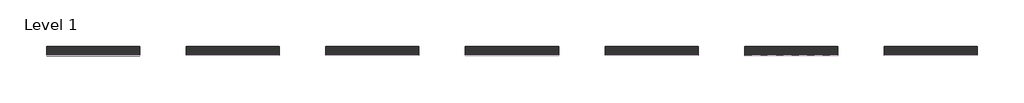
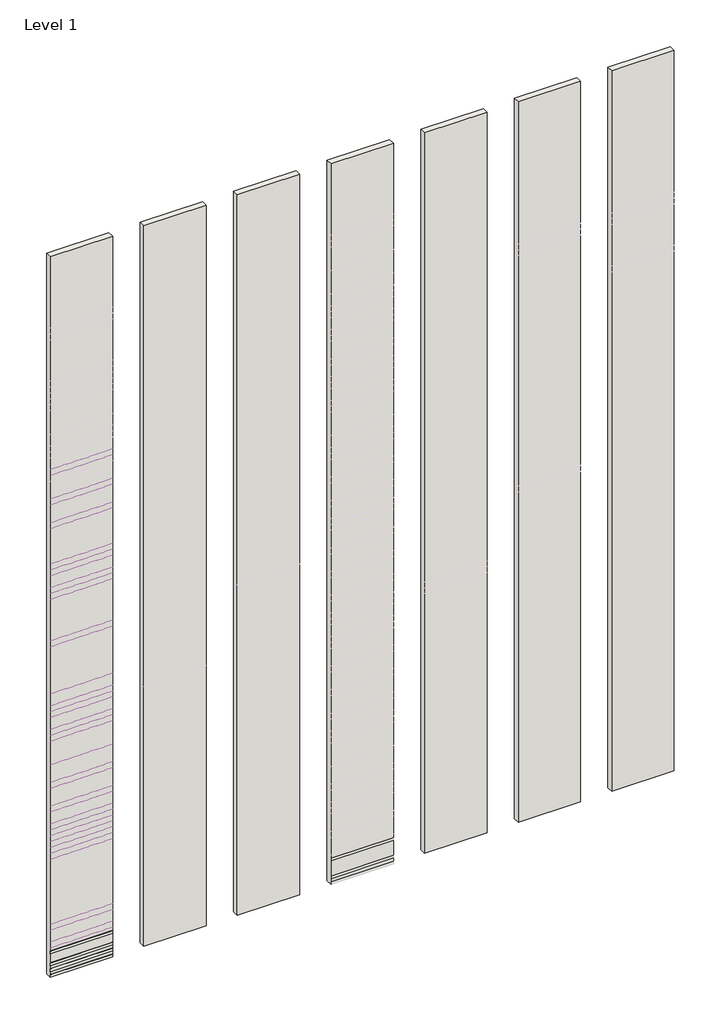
# One storey, part 1 of 3: 41 coverings, 7 walls.
"""IFC4 building model written with IfcOpenShell, lengths in millimetres."""

from ifc_helpers import new_model, si_unit, point, frame, frame_2d, origin, origin_with_axes, place, context, project, spatial, polyline, circle_curve, trimmed, segment, composite_curve, outline, extrude, element, save

model = new_model("IFC4")

# Units and contexts
model_context = context("Model", 3, world=origin())
ifc_project = project(units=[si_unit("LENGTHUNIT", "METRE", prefix="MILLI")], contexts=[model_context])

# Site, building, storey
site = spatial("IfcSite", under=ifc_project)
building = spatial("IfcBuilding", under=site)
storey = spatial("IfcBuildingStorey", under=building, Name="Level 1", Elevation=0.0)

# Coverings
placement = place(None, origin())
element("IfcCovering", 1, ObjectType="REVIGRÉS-CROMATICA-RB-9.5x30-MATTNAT-cromatica_alloy", at=placement, inside=storey, context=model_context, shape_type="SweptSolid", body=[
    extrude(outline(composite_curve([segment(polyline([(9521.7775805, 0.0), (9513.2775805, 0.0), (9513.2775805, 86.5)]), True, "CONTINUOUS"), segment(trimmed(circle_curve(frame_2d((9521.7775805, 86.5)), 8.5), [point((9513.2775805, 86.5))], [point((9521.7775805, 95.0))], False, "CARTESIAN"), True, "CONTINUOUS"), segment(polyline([(9521.7775805, 95.0), (9521.7775805, 0.0)]), True, "CONTINUOUS")], self_intersect=False)), frame((-30127.1860756, 0.0, 0.0), z_axis=(1.0, 0.0, 0.0), x_axis=(0.0, 1.0, 0.0)), (0.0, 0.0, 1.0), 2000.0),
])
element("IfcCovering", 2, ObjectType="REVIGRÉS-CROMATICA-RB-9.5x29.5-POL-cromatica_alloy", at=placement, inside=storey, context=model_context, shape_type="SweptSolid", body=[
    extrude(outline(composite_curve([segment(polyline([(9521.7775805, 200.0), (9513.7775805, 200.0), (9513.7775805, 287.0)]), True, "CONTINUOUS"), segment(trimmed(circle_curve(frame_2d((9521.7775805, 287.0)), 8.0), [point((9513.7775805, 287.0))], [point((9521.7775805, 295.0))], False, "CARTESIAN"), True, "CONTINUOUS"), segment(polyline([(9521.7775805, 295.0), (9521.7775805, 200.0)]), True, "CONTINUOUS")], self_intersect=False)), frame((-30127.1860756, 0.0, 0.0), z_axis=(1.0, 0.0, 0.0), x_axis=(0.0, 1.0, 0.0)), (0.0, 0.0, 1.0), 2000.0),
])
element("IfcCovering", 3, ObjectType="REVIGRÉS-CROMATICA-RB-9.5x29.5-SOFT-cromatica_alloy", at=placement, inside=storey, context=model_context, shape_type="SweptSolid", body=[
    extrude(outline(composite_curve([segment(polyline([(9521.7775805, 400.0), (9513.2775805, 400.0), (9513.2775805, 486.5)]), True, "CONTINUOUS"), segment(trimmed(circle_curve(frame_2d((9521.7775805, 486.5)), 8.5), [point((9513.2775805, 486.5))], [point((9521.7775805, 495.0))], False, "CARTESIAN"), True, "CONTINUOUS"), segment(polyline([(9521.7775805, 495.0), (9521.7775805, 400.0)]), True, "CONTINUOUS")], self_intersect=False)), frame((-30127.1860756, 0.0, 0.0), z_axis=(1.0, 0.0, 0.0), x_axis=(0.0, 1.0, 0.0)), (0.0, 0.0, 1.0), 2000.0),
])
element("IfcCovering", 4, ObjectType="REVIGRÉS-CROMATICA-RB-9.5x29.5-MATTRECT-cromatica_anis", at=placement, inside=storey, context=model_context, shape_type="SweptSolid", body=[
    extrude(outline(composite_curve([segment(polyline([(9521.7775805, 800.0), (9513.2775805, 800.0), (9513.2775805, 886.5)]), True, "CONTINUOUS"), segment(trimmed(circle_curve(frame_2d((9521.7775805, 886.5)), 8.5), [point((9513.2775805, 886.5))], [point((9521.7775805, 895.0))], False, "CARTESIAN"), True, "CONTINUOUS"), segment(polyline([(9521.7775805, 895.0), (9521.7775805, 800.0)]), True, "CONTINUOUS")], self_intersect=False)), frame((-30127.1860756, 0.0, 0.0), z_axis=(1.0, 0.0, 0.0), x_axis=(0.0, 1.0, 0.0)), (0.0, 0.0, 1.0), 2000.0),
])
element("IfcCovering", 5, ObjectType="REVIGRÉS-CROMATICA-RB-9.5x29.5-POL-cromatica_anis", at=placement, inside=storey, context=model_context, shape_type="SweptSolid", body=[
    extrude(outline(composite_curve([segment(polyline([(9521.7775805, 1000.0), (9513.7775805, 1000.0), (9513.7775805, 1087.0)]), True, "CONTINUOUS"), segment(trimmed(circle_curve(frame_2d((9521.7775805, 1087.0)), 8.0), [point((9513.7775805, 1087.0))], [point((9521.7775805, 1095.0))], False, "CARTESIAN"), True, "CONTINUOUS"), segment(polyline([(9521.7775805, 1095.0), (9521.7775805, 1000.0)]), True, "CONTINUOUS")], self_intersect=False)), frame((-30127.1860756, 0.0, 0.0), z_axis=(1.0, 0.0, 0.0), x_axis=(0.0, 1.0, 0.0)), (0.0, 0.0, 1.0), 2000.0),
])
element("IfcCovering", 6, ObjectType="REVIGRÉS-CROMATICA-RB-9.5x29.5-SOFT-cromatica_anis", at=placement, inside=storey, context=model_context, shape_type="SweptSolid", body=[
    extrude(outline(composite_curve([segment(polyline([(9521.7775805, 1200.0), (9513.2775805, 1200.0), (9513.2775805, 1286.5)]), True, "CONTINUOUS"), segment(trimmed(circle_curve(frame_2d((9521.7775805, 1286.5)), 8.5), [point((9513.2775805, 1286.5))], [point((9521.7775805, 1295.0))], False, "CARTESIAN"), True, "CONTINUOUS"), segment(polyline([(9521.7775805, 1295.0), (9521.7775805, 1200.0)]), True, "CONTINUOUS")], self_intersect=False)), frame((-30127.1860756, 0.0, 0.0), z_axis=(1.0, 0.0, 0.0), x_axis=(0.0, 1.0, 0.0)), (0.0, 0.0, 1.0), 2000.0),
])
element("IfcCovering", 7, ObjectType="REVIGRÉS-CROMATICA-RB-9.5x29.5-POL-cromatica_antracite", at=placement, inside=storey, context=model_context, shape_type="SweptSolid", body=[
    extrude(outline(composite_curve([segment(polyline([(9521.7775805, 1600.0), (9513.7775805, 1600.0), (9513.7775805, 1687.0)]), True, "CONTINUOUS"), segment(trimmed(circle_curve(frame_2d((9521.7775805, 1687.0)), 8.0), [point((9513.7775805, 1687.0))], [point((9521.7775805, 1695.0))], False, "CARTESIAN"), True, "CONTINUOUS"), segment(polyline([(9521.7775805, 1695.0), (9521.7775805, 1600.0)]), True, "CONTINUOUS")], self_intersect=False)), frame((-30127.1860756, 0.0, 0.0), z_axis=(1.0, 0.0, 0.0), x_axis=(0.0, 1.0, 0.0)), (0.0, 0.0, 1.0), 2000.0),
])
element("IfcCovering", 8, ObjectType="REVIGRÉS-CROMATICA-RB-9.5x29.5-SOFT-cromatica_antracite", at=placement, inside=storey, context=model_context, shape_type="SweptSolid", body=[
    extrude(outline(composite_curve([segment(polyline([(9521.7775805, 1800.0), (9513.2775805, 1800.0), (9513.2775805, 1886.5)]), True, "CONTINUOUS"), segment(trimmed(circle_curve(frame_2d((9521.7775805, 1886.5)), 8.5), [point((9513.2775805, 1886.5))], [point((9521.7775805, 1895.0))], False, "CARTESIAN"), True, "CONTINUOUS"), segment(polyline([(9521.7775805, 1895.0), (9521.7775805, 1800.0)]), True, "CONTINUOUS")], self_intersect=False)), frame((-30127.1860756, 0.0, 0.0), z_axis=(1.0, 0.0, 0.0), x_axis=(0.0, 1.0, 0.0)), (0.0, 0.0, 1.0), 2000.0),
])
element("IfcCovering", 9, ObjectType="REVIGRÉS-CROMATICA-RB-9.5x29.5-MATTRECT-cromatica_bege", at=placement, inside=storey, context=model_context, shape_type="SweptSolid", body=[
    extrude(outline(composite_curve([segment(polyline([(9521.7775805, 4200.0), (9513.2775805, 4200.0), (9513.2775805, 4286.5)]), True, "CONTINUOUS"), segment(trimmed(circle_curve(frame_2d((9521.7775805, 4286.5)), 8.5), [point((9513.2775805, 4286.5))], [point((9521.7775805, 4295.0))], False, "CARTESIAN"), True, "CONTINUOUS"), segment(polyline([(9521.7775805, 4295.0), (9521.7775805, 4200.0)]), True, "CONTINUOUS")], self_intersect=False)), frame((-30127.1860756, 0.0, 0.0), z_axis=(1.0, 0.0, 0.0), x_axis=(0.0, 1.0, 0.0)), (0.0, 0.0, 1.0), 2000.0),
])
element("IfcCovering", 10, ObjectType="REVIGRÉS-CROMATICA-RB-9.5x30-MATTNAT-cromatica_bege", at=placement, inside=storey, context=model_context, shape_type="SweptSolid", body=[
    extrude(outline(composite_curve([segment(polyline([(9521.7775805, 4000.0), (9513.2775805, 4000.0), (9513.2775805, 4086.5)]), True, "CONTINUOUS"), segment(trimmed(circle_curve(frame_2d((9521.7775805, 4086.5)), 8.5), [point((9513.2775805, 4086.5))], [point((9521.7775805, 4095.0))], False, "CARTESIAN"), True, "CONTINUOUS"), segment(polyline([(9521.7775805, 4095.0), (9521.7775805, 4000.0)]), True, "CONTINUOUS")], self_intersect=False)), frame((-30127.1860756, 0.0, 0.0), z_axis=(1.0, 0.0, 0.0), x_axis=(0.0, 1.0, 0.0)), (0.0, 0.0, 1.0), 2000.0),
])
element("IfcCovering", 11, ObjectType="REVIGRÉS-CROMATICA-RB-9.5x29.5-POL-cromatica_bege", at=placement, inside=storey, context=model_context, shape_type="SweptSolid", body=[
    extrude(outline(composite_curve([segment(polyline([(9521.7775805, 4400.0), (9513.7775805, 4400.0), (9513.7775805, 4487.0)]), True, "CONTINUOUS"), segment(trimmed(circle_curve(frame_2d((9521.7775805, 4487.0)), 8.0), [point((9513.7775805, 4487.0))], [point((9521.7775805, 4495.0))], False, "CARTESIAN"), True, "CONTINUOUS"), segment(polyline([(9521.7775805, 4495.0), (9521.7775805, 4400.0)]), True, "CONTINUOUS")], self_intersect=False)), frame((-30127.1860756, 0.0, 0.0), z_axis=(1.0, 0.0, 0.0), x_axis=(0.0, 1.0, 0.0)), (0.0, 0.0, 1.0), 2000.0),
])
element("IfcCovering", 12, ObjectType="REVIGRÉS-CROMATICA-RB-9.5x29.5-SOFT-cromatica_bege", at=placement, inside=storey, context=model_context, shape_type="SweptSolid", body=[
    extrude(outline(composite_curve([segment(polyline([(9521.7775805, 4600.0), (9513.2775805, 4600.0), (9513.2775805, 4686.5)]), True, "CONTINUOUS"), segment(trimmed(circle_curve(frame_2d((9521.7775805, 4686.5)), 8.5), [point((9513.2775805, 4686.5))], [point((9521.7775805, 4695.0))], False, "CARTESIAN"), True, "CONTINUOUS"), segment(polyline([(9521.7775805, 4695.0), (9521.7775805, 4600.0)]), True, "CONTINUOUS")], self_intersect=False)), frame((-30127.1860756, 0.0, 0.0), z_axis=(1.0, 0.0, 0.0), x_axis=(0.0, 1.0, 0.0)), (0.0, 0.0, 1.0), 2000.0),
])
element("IfcCovering", 13, ObjectType="REVIGRÉS-CROMATICA-RB-9.5x29.5-MATTRECT-cromatica_bone", at=placement, inside=storey, context=model_context, shape_type="SweptSolid", body=[
    extrude(outline(composite_curve([segment(polyline([(9521.7775805, 4800.0), (9513.2775805, 4800.0), (9513.2775805, 4886.5)]), True, "CONTINUOUS"), segment(trimmed(circle_curve(frame_2d((9521.7775805, 4886.5)), 8.5), [point((9513.2775805, 4886.5))], [point((9521.7775805, 4895.0))], False, "CARTESIAN"), True, "CONTINUOUS"), segment(polyline([(9521.7775805, 4895.0), (9521.7775805, 4800.0)]), True, "CONTINUOUS")], self_intersect=False)), frame((-30127.1860756, 0.0, 0.0), z_axis=(1.0, 0.0, 0.0), x_axis=(0.0, 1.0, 0.0)), (0.0, 0.0, 1.0), 2000.0),
])
element("IfcCovering", 14, ObjectType="REVIGRÉS-CROMATICA-RB-9.5x29.5-POL-cromatica_bone", at=placement, inside=storey, context=model_context, shape_type="SweptSolid", body=[
    extrude(outline(composite_curve([segment(polyline([(9521.7775805, 5000.0), (9513.7775805, 5000.0), (9513.7775805, 5087.0)]), True, "CONTINUOUS"), segment(trimmed(circle_curve(frame_2d((9521.7775805, 5087.0)), 8.0), [point((9513.7775805, 5087.0))], [point((9521.7775805, 5095.0))], False, "CARTESIAN"), True, "CONTINUOUS"), segment(polyline([(9521.7775805, 5095.0), (9521.7775805, 5000.0)]), True, "CONTINUOUS")], self_intersect=False)), frame((-30127.1860756, 0.0, 0.0), z_axis=(1.0, 0.0, 0.0), x_axis=(0.0, 1.0, 0.0)), (0.0, 0.0, 1.0), 2000.0),
])
element("IfcCovering", 15, ObjectType="REVIGRÉS-CROMATICA-RB-9.5x29.5-SOFT-cromatica_bone", at=placement, inside=storey, context=model_context, shape_type="SweptSolid", body=[
    extrude(outline(composite_curve([segment(polyline([(9521.7775805, 5200.0), (9513.2775805, 5200.0), (9513.2775805, 5286.5)]), True, "CONTINUOUS"), segment(trimmed(circle_curve(frame_2d((9521.7775805, 5286.5)), 8.5), [point((9513.2775805, 5286.5))], [point((9521.7775805, 5295.0))], False, "CARTESIAN"), True, "CONTINUOUS"), segment(polyline([(9521.7775805, 5295.0), (9521.7775805, 5200.0)]), True, "CONTINUOUS")], self_intersect=False)), frame((-30127.1860756, 0.0, 0.0), z_axis=(1.0, 0.0, 0.0), x_axis=(0.0, 1.0, 0.0)), (0.0, 0.0, 1.0), 2000.0),
])
element("IfcCovering", 16, ObjectType="REVIGRÉS-CROMATICA-RB-9.5x29.5-MATTRECT-cromatica_brick", at=placement, inside=storey, context=model_context, shape_type="SweptSolid", body=[
    extrude(outline(composite_curve([segment(polyline([(9521.7775805, 5600.0), (9513.2775805, 5600.0), (9513.2775805, 5686.5)]), True, "CONTINUOUS"), segment(trimmed(circle_curve(frame_2d((9521.7775805, 5686.5)), 8.5), [point((9513.2775805, 5686.5))], [point((9521.7775805, 5695.0))], False, "CARTESIAN"), True, "CONTINUOUS"), segment(polyline([(9521.7775805, 5695.0), (9521.7775805, 5600.0)]), True, "CONTINUOUS")], self_intersect=False)), frame((-30127.1860756, 0.0, 0.0), z_axis=(1.0, 0.0, 0.0), x_axis=(0.0, 1.0, 0.0)), (0.0, 0.0, 1.0), 2000.0),
])
element("IfcCovering", 17, ObjectType="REVIGRÉS-CROMATICA-RB-9.5x29.5-POL-cromatica_brick", at=placement, inside=storey, context=model_context, shape_type="SweptSolid", body=[
    extrude(outline(composite_curve([segment(polyline([(9521.7775805, 5800.0), (9513.7775805, 5800.0), (9513.7775805, 5887.0)]), True, "CONTINUOUS"), segment(trimmed(circle_curve(frame_2d((9521.7775805, 5887.0)), 8.0), [point((9513.7775805, 5887.0))], [point((9521.7775805, 5895.0))], False, "CARTESIAN"), True, "CONTINUOUS"), segment(polyline([(9521.7775805, 5895.0), (9521.7775805, 5800.0)]), True, "CONTINUOUS")], self_intersect=False)), frame((-30127.1860756, 0.0, 0.0), z_axis=(1.0, 0.0, 0.0), x_axis=(0.0, 1.0, 0.0)), (0.0, 0.0, 1.0), 2000.0),
])
element("IfcCovering", 18, ObjectType="REVIGRÉS-CROMATICA-RB-9.5x29.5-MATTRECT-cromatica_cobalto", at=placement, inside=storey, context=model_context, shape_type="SweptSolid", body=[
    extrude(outline(composite_curve([segment(polyline([(9521.7775805, 6400.0), (9513.2775805, 6400.0), (9513.2775805, 6486.5)]), True, "CONTINUOUS"), segment(trimmed(circle_curve(frame_2d((9521.7775805, 6486.5)), 8.5), [point((9513.2775805, 6486.5))], [point((9521.7775805, 6495.0))], False, "CARTESIAN"), True, "CONTINUOUS"), segment(polyline([(9521.7775805, 6495.0), (9521.7775805, 6400.0)]), True, "CONTINUOUS")], self_intersect=False)), frame((-30127.1860756, 0.0, 0.0), z_axis=(1.0, 0.0, 0.0), x_axis=(0.0, 1.0, 0.0)), (0.0, 0.0, 1.0), 2000.0),
])
element("IfcCovering", 19, ObjectType="REVIGRÉS-CROMATICA-RB-9.5x29.5-MATTRECT-cromatica_coral", at=placement, inside=storey, context=model_context, shape_type="SweptSolid", body=[
    extrude(outline(composite_curve([segment(polyline([(9521.7775805, 7200.0), (9513.2775805, 7200.0), (9513.2775805, 7286.5)]), True, "CONTINUOUS"), segment(trimmed(circle_curve(frame_2d((9521.7775805, 7286.5)), 8.5), [point((9513.2775805, 7286.5))], [point((9521.7775805, 7295.0))], False, "CARTESIAN"), True, "CONTINUOUS"), segment(polyline([(9521.7775805, 7295.0), (9521.7775805, 7200.0)]), True, "CONTINUOUS")], self_intersect=False)), frame((-30127.1860756, 0.0, 0.0), z_axis=(1.0, 0.0, 0.0), x_axis=(0.0, 1.0, 0.0)), (0.0, 0.0, 1.0), 2000.0),
])
element("IfcCovering", 20, ObjectType="REVIGRÉS-CROMATICA-RB-9.5x29.5-MATTRECT-cromatica_grafite", at=placement, inside=storey, context=model_context, shape_type="SweptSolid", body=[
    extrude(outline(composite_curve([segment(polyline([(9521.7775805, 8000.0), (9513.2775805, 8000.0), (9513.2775805, 8086.5)]), True, "CONTINUOUS"), segment(trimmed(circle_curve(frame_2d((9521.7775805, 8086.5)), 8.5), [point((9513.2775805, 8086.5))], [point((9521.7775805, 8095.0))], False, "CARTESIAN"), True, "CONTINUOUS"), segment(polyline([(9521.7775805, 8095.0), (9521.7775805, 8000.0)]), True, "CONTINUOUS")], self_intersect=False)), frame((-30127.1860756, 0.0, 0.0), z_axis=(1.0, 0.0, 0.0), x_axis=(0.0, 1.0, 0.0)), (0.0, 0.0, 1.0), 2000.0),
])
element("IfcCovering", 21, ObjectType="REVIGRÉS-CROMATICA-RB-9.5x29.5-POL-cromatica_grafite", at=placement, inside=storey, context=model_context, shape_type="SweptSolid", body=[
    extrude(outline(composite_curve([segment(polyline([(9521.7775805, 8200.0), (9513.7775805, 8200.0), (9513.7775805, 8287.0)]), True, "CONTINUOUS"), segment(trimmed(circle_curve(frame_2d((9521.7775805, 8287.0)), 8.0), [point((9513.7775805, 8287.0))], [point((9521.7775805, 8295.0))], False, "CARTESIAN"), True, "CONTINUOUS"), segment(polyline([(9521.7775805, 8295.0), (9521.7775805, 8200.0)]), True, "CONTINUOUS")], self_intersect=False)), frame((-30127.1860756, 0.0, 0.0), z_axis=(1.0, 0.0, 0.0), x_axis=(0.0, 1.0, 0.0)), (0.0, 0.0, 1.0), 2000.0),
])
element("IfcCovering", 22, ObjectType="REVIGRÉS-CROMATICA-RB-9.5x29.5-SOFT-cromatica_grafite", at=placement, inside=storey, context=model_context, shape_type="SweptSolid", body=[
    extrude(outline(composite_curve([segment(polyline([(9521.7775805, 8400.0), (9513.2775805, 8400.0), (9513.2775805, 8486.5)]), True, "CONTINUOUS"), segment(trimmed(circle_curve(frame_2d((9521.7775805, 8486.5)), 8.5), [point((9513.2775805, 8486.5))], [point((9521.7775805, 8495.0))], False, "CARTESIAN"), True, "CONTINUOUS"), segment(polyline([(9521.7775805, 8495.0), (9521.7775805, 8400.0)]), True, "CONTINUOUS")], self_intersect=False)), frame((-30127.1860756, 0.0, 0.0), z_axis=(1.0, 0.0, 0.0), x_axis=(0.0, 1.0, 0.0)), (0.0, 0.0, 1.0), 2000.0),
])
element("IfcCovering", 23, ObjectType="REVIGRÉS-CROMATICA-RB-9.5x29.5-MATTRECT-cromatica_ice", at=placement, inside=storey, context=model_context, shape_type="SweptSolid", body=[
    extrude(outline(composite_curve([segment(polyline([(9521.7775805, 8800.0), (9513.2775805, 8800.0), (9513.2775805, 8886.5)]), True, "CONTINUOUS"), segment(trimmed(circle_curve(frame_2d((9521.7775805, 8886.5)), 8.5), [point((9513.2775805, 8886.5))], [point((9521.7775805, 8895.0))], False, "CARTESIAN"), True, "CONTINUOUS"), segment(polyline([(9521.7775805, 8895.0), (9521.7775805, 8800.0)]), True, "CONTINUOUS")], self_intersect=False)), frame((-30127.1860756, 0.0, 0.0), z_axis=(1.0, 0.0, 0.0), x_axis=(0.0, 1.0, 0.0)), (0.0, 0.0, 1.0), 2000.0),
])
element("IfcCovering", 24, ObjectType="REVIGRÉS-CROMATICA-RB-9.5x29.5-POL-cromatica_ice", at=placement, inside=storey, context=model_context, shape_type="SweptSolid", body=[
    extrude(outline(composite_curve([segment(polyline([(9521.7775805, 9000.0), (9513.7775805, 9000.0), (9513.7775805, 9087.0)]), True, "CONTINUOUS"), segment(trimmed(circle_curve(frame_2d((9521.7775805, 9087.0)), 8.0), [point((9513.7775805, 9087.0))], [point((9521.7775805, 9095.0))], False, "CARTESIAN"), True, "CONTINUOUS"), segment(polyline([(9521.7775805, 9095.0), (9521.7775805, 9000.0)]), True, "CONTINUOUS")], self_intersect=False)), frame((-30127.1860756, 0.0, 0.0), z_axis=(1.0, 0.0, 0.0), x_axis=(0.0, 1.0, 0.0)), (0.0, 0.0, 1.0), 2000.0),
])
element("IfcCovering", 25, ObjectType="REVIGRÉS-CROMATICA-RB-9.5x29.5-SOFT-cromatica_ice", at=placement, inside=storey, context=model_context, shape_type="SweptSolid", body=[
    extrude(outline(composite_curve([segment(polyline([(9521.7775805, 9200.0), (9513.2775805, 9200.0), (9513.2775805, 9286.5)]), True, "CONTINUOUS"), segment(trimmed(circle_curve(frame_2d((9521.7775805, 9286.5)), 8.5), [point((9513.2775805, 9286.5))], [point((9521.7775805, 9295.0))], False, "CARTESIAN"), True, "CONTINUOUS"), segment(polyline([(9521.7775805, 9295.0), (9521.7775805, 9200.0)]), True, "CONTINUOUS")], self_intersect=False)), frame((-30127.1860756, 0.0, 0.0), z_axis=(1.0, 0.0, 0.0), x_axis=(0.0, 1.0, 0.0)), (0.0, 0.0, 1.0), 2000.0),
])
element("IfcCovering", 26, ObjectType="REVIGRÉS-CROMATICA-RB-9.5x29.5-SOFT-cromatica_indigo", at=placement, inside=storey, context=model_context, shape_type="SweptSolid", body=[
    extrude(outline(composite_curve([segment(polyline([(9521.7775805, 9600.0), (9513.2775805, 9600.0), (9513.2775805, 9686.5)]), True, "CONTINUOUS"), segment(trimmed(circle_curve(frame_2d((9521.7775805, 9686.5)), 8.5), [point((9513.2775805, 9686.5))], [point((9521.7775805, 9695.0))], False, "CARTESIAN"), True, "CONTINUOUS"), segment(polyline([(9521.7775805, 9695.0), (9521.7775805, 9600.0)]), True, "CONTINUOUS")], self_intersect=False)), frame((-30127.1860756, 0.0, 0.0), z_axis=(1.0, 0.0, 0.0), x_axis=(0.0, 1.0, 0.0)), (0.0, 0.0, 1.0), 2000.0),
])
element("IfcCovering", 27, ObjectType="REVIGRÉS-CROMATICA-RB-9.5x29.5-POL-cromatica_cobalto", at=placement, inside=storey, context=model_context, shape_type="SweptSolid", body=[
    extrude(outline(composite_curve([segment(polyline([(9521.7775805, 6600.0), (9513.7775805, 6600.0), (9513.7775805, 6687.0)]), True, "CONTINUOUS"), segment(trimmed(circle_curve(frame_2d((9521.7775805, 6687.0)), 8.0), [point((9513.7775805, 6687.0))], [point((9521.7775805, 6695.0))], False, "CARTESIAN"), True, "CONTINUOUS"), segment(polyline([(9521.7775805, 6695.0), (9521.7775805, 6600.0)]), True, "CONTINUOUS")], self_intersect=False)), frame((-30127.1860756, 0.0, 0.0), z_axis=(1.0, 0.0, 0.0), x_axis=(0.0, 1.0, 0.0)), (0.0, 0.0, 1.0), 2000.0),
])
element("IfcCovering", 28, ObjectType="REVIGRÉS-CROMATICA-RB-9.5x29.5-SOFT-cromatica_jet", at=placement, inside=storey, context=model_context, shape_type="SweptSolid", body=[
    extrude(outline(composite_curve([segment(polyline([(9521.7775805, 11400.0), (9513.2775805, 11400.0), (9513.2775805, 11486.5)]), True, "CONTINUOUS"), segment(trimmed(circle_curve(frame_2d((9521.7775805, 11486.5)), 8.5), [point((9513.2775805, 11486.5))], [point((9521.7775805, 11495.0))], False, "CARTESIAN"), True, "CONTINUOUS"), segment(polyline([(9521.7775805, 11495.0), (9521.7775805, 11400.0)]), True, "CONTINUOUS")], self_intersect=False)), frame((-30127.1860756, 0.0, 0.0), z_axis=(1.0, 0.0, 0.0), x_axis=(0.0, 1.0, 0.0)), (0.0, 0.0, 1.0), 2000.0),
])
element("IfcCovering", 29, ObjectType="REVIGRÉS-CROMATICA-RB-9.5x29.5-POL-cromatica_jet", at=placement, inside=storey, context=model_context, shape_type="SweptSolid", body=[
    extrude(outline(composite_curve([segment(polyline([(9521.7775805, 11200.0), (9513.7775805, 11200.0), (9513.7775805, 11287.0)]), True, "CONTINUOUS"), segment(trimmed(circle_curve(frame_2d((9521.7775805, 11287.0)), 8.0), [point((9513.7775805, 11287.0))], [point((9521.7775805, 11295.0))], False, "CARTESIAN"), True, "CONTINUOUS"), segment(polyline([(9521.7775805, 11295.0), (9521.7775805, 11200.0)]), True, "CONTINUOUS")], self_intersect=False)), frame((-30127.1860756, 0.0, 0.0), z_axis=(1.0, 0.0, 0.0), x_axis=(0.0, 1.0, 0.0)), (0.0, 0.0, 1.0), 2000.0),
])
element("IfcCovering", 30, ObjectType="REVIGRÉS-CROMATICA-RB-9.5x29.5-MATTRECT-cromatica_ocre", at=placement, inside=storey, context=model_context, shape_type="SweptSolid", body=[
    extrude(outline(composite_curve([segment(polyline([(9521.7775805, 12800.0), (9513.2775805, 12800.0), (9513.2775805, 12886.5)]), True, "CONTINUOUS"), segment(trimmed(circle_curve(frame_2d((9521.7775805, 12886.5)), 8.5), [point((9513.2775805, 12886.5))], [point((9521.7775805, 12895.0))], False, "CARTESIAN"), True, "CONTINUOUS"), segment(polyline([(9521.7775805, 12895.0), (9521.7775805, 12800.0)]), True, "CONTINUOUS")], self_intersect=False)), frame((-30127.1860756, 0.0, 0.0), z_axis=(1.0, 0.0, 0.0), x_axis=(0.0, 1.0, 0.0)), (0.0, 0.0, 1.0), 2000.0),
])
element("IfcCovering", 31, ObjectType="REVIGRÉS-CROMATICA-RB-9.5x29.5-SOFT-cromatica_ocre", at=placement, inside=storey, context=model_context, shape_type="SweptSolid", body=[
    extrude(outline(composite_curve([segment(polyline([(9521.7775805, 13200.0), (9513.2775805, 13200.0), (9513.2775805, 13286.5)]), True, "CONTINUOUS"), segment(trimmed(circle_curve(frame_2d((9521.7775805, 13286.5)), 8.5), [point((9513.2775805, 13286.5))], [point((9521.7775805, 13295.0))], False, "CARTESIAN"), True, "CONTINUOUS"), segment(polyline([(9521.7775805, 13295.0), (9521.7775805, 13200.0)]), True, "CONTINUOUS")], self_intersect=False)), frame((-30127.1860756, 0.0, 0.0), z_axis=(1.0, 0.0, 0.0), x_axis=(0.0, 1.0, 0.0)), (0.0, 0.0, 1.0), 2000.0),
])
element("IfcCovering", 32, ObjectType="REVIGRÉS-CROMATICA-RB-9.5x29.5-MATTRECT-cromatica_oliva", at=placement, inside=storey, context=model_context, shape_type="SweptSolid", body=[
    extrude(outline(composite_curve([segment(polyline([(9521.7775805, 13600.0), (9513.2775805, 13600.0), (9513.2775805, 13686.5)]), True, "CONTINUOUS"), segment(trimmed(circle_curve(frame_2d((9521.7775805, 13686.5)), 8.5), [point((9513.2775805, 13686.5))], [point((9521.7775805, 13695.0))], False, "CARTESIAN"), True, "CONTINUOUS"), segment(polyline([(9521.7775805, 13695.0), (9521.7775805, 13600.0)]), True, "CONTINUOUS")], self_intersect=False)), frame((-30127.1860756, 0.0, 0.0), z_axis=(1.0, 0.0, 0.0), x_axis=(0.0, 1.0, 0.0)), (0.0, 0.0, 1.0), 2000.0),
])
element("IfcCovering", 33, ObjectType="REVIGRÉS-CROMATICA-RB-9.5x29.5-POL-cromatica_ocre", at=placement, inside=storey, context=model_context, shape_type="SweptSolid", body=[
    extrude(outline(composite_curve([segment(polyline([(9521.7775805, 13000.0), (9513.7775805, 13000.0), (9513.7775805, 13087.0)]), True, "CONTINUOUS"), segment(trimmed(circle_curve(frame_2d((9521.7775805, 13087.0)), 8.0), [point((9513.7775805, 13087.0))], [point((9521.7775805, 13095.0))], False, "CARTESIAN"), True, "CONTINUOUS"), segment(polyline([(9521.7775805, 13095.0), (9521.7775805, 13000.0)]), True, "CONTINUOUS")], self_intersect=False)), frame((-30127.1860756, 0.0, 0.0), z_axis=(1.0, 0.0, 0.0), x_axis=(0.0, 1.0, 0.0)), (0.0, 0.0, 1.0), 2000.0),
])
element("IfcCovering", 34, ObjectType="REVIGRÉS-CROMATICA-RB-9.5x29.5-POL-cromatica_oliva", at=placement, inside=storey, context=model_context, shape_type="SweptSolid", body=[
    extrude(outline(composite_curve([segment(polyline([(9521.7775805, 13800.0), (9513.7775805, 13800.0), (9513.7775805, 13887.0)]), True, "CONTINUOUS"), segment(trimmed(circle_curve(frame_2d((9521.7775805, 13887.0)), 8.0), [point((9513.7775805, 13887.0))], [point((9521.7775805, 13895.0))], False, "CARTESIAN"), True, "CONTINUOUS"), segment(polyline([(9521.7775805, 13895.0), (9521.7775805, 13800.0)]), True, "CONTINUOUS")], self_intersect=False)), frame((-30127.1860756, 0.0, 0.0), z_axis=(1.0, 0.0, 0.0), x_axis=(0.0, 1.0, 0.0)), (0.0, 0.0, 1.0), 2000.0),
])
element("IfcCovering", 35, ObjectType="REVIGRÉS-CROMATICA-RB-9.5x29.5-SOFT-cromatica_oliva", at=placement, inside=storey, context=model_context, shape_type="SweptSolid", body=[
    extrude(outline(composite_curve([segment(polyline([(9521.7775805, 14000.0), (9513.2775805, 14000.0), (9513.2775805, 14086.5)]), True, "CONTINUOUS"), segment(trimmed(circle_curve(frame_2d((9521.7775805, 14086.5)), 8.5), [point((9513.2775805, 14086.5))], [point((9521.7775805, 14095.0))], False, "CARTESIAN"), True, "CONTINUOUS"), segment(polyline([(9521.7775805, 14095.0), (9521.7775805, 14000.0)]), True, "CONTINUOUS")], self_intersect=False)), frame((-30127.1860756, 0.0, 0.0), z_axis=(1.0, 0.0, 0.0), x_axis=(0.0, 1.0, 0.0)), (0.0, 0.0, 1.0), 2000.0),
])
element("IfcCovering", 36, ObjectType="REVIGRÉS-CROMATICA-RB-9.5x29.5-POL-cromatica_palm", at=placement, inside=storey, context=model_context, shape_type="SweptSolid", body=[
    extrude(outline(composite_curve([segment(polyline([(9521.7775805, 15200.0), (9513.7775805, 15200.0), (9513.7775805, 15287.0)]), True, "CONTINUOUS"), segment(trimmed(circle_curve(frame_2d((9521.7775805, 15287.0)), 8.0), [point((9513.7775805, 15287.0))], [point((9521.7775805, 15295.0))], False, "CARTESIAN"), True, "CONTINUOUS"), segment(polyline([(9521.7775805, 15295.0), (9521.7775805, 15200.0)]), True, "CONTINUOUS")], self_intersect=False)), frame((-30127.1860756, 0.0, 0.0), z_axis=(1.0, 0.0, 0.0), x_axis=(0.0, 1.0, 0.0)), (0.0, 0.0, 1.0), 2000.0),
])
element("IfcCovering", 37, ObjectType="REVIGRÉS-CROMATICA-RB-9.5x29.5-SOFT-cromática_palm", at=placement, inside=storey, context=model_context, shape_type="SweptSolid", body=[
    extrude(outline(composite_curve([segment(polyline([(9521.7775805, 15400.0), (9513.2775805, 15400.0), (9513.2775805, 15486.5)]), True, "CONTINUOUS"), segment(trimmed(circle_curve(frame_2d((9521.7775805, 15486.5)), 8.5), [point((9513.2775805, 15486.5))], [point((9521.7775805, 15495.0))], False, "CARTESIAN"), True, "CONTINUOUS"), segment(polyline([(9521.7775805, 15495.0), (9521.7775805, 15400.0)]), True, "CONTINUOUS")], self_intersect=False)), frame((-30127.1860756, 0.0, 0.0), z_axis=(1.0, 0.0, 0.0), x_axis=(0.0, 1.0, 0.0)), (0.0, 0.0, 1.0), 2000.0),
])
element("IfcCovering", 38, ObjectType="REVIGRÉS-CROMATICA-RB-9.5x29.5-MATTRECT-cromatica_pistachio", at=placement, inside=storey, context=model_context, shape_type="SweptSolid", body=[
    extrude(outline(composite_curve([segment(polyline([(9521.7775805, 16000.0), (9513.2775805, 16000.0), (9513.2775805, 16086.5)]), True, "CONTINUOUS"), segment(trimmed(circle_curve(frame_2d((9521.7775805, 16086.5)), 8.5), [point((9513.2775805, 16086.5))], [point((9521.7775805, 16095.0))], False, "CARTESIAN"), True, "CONTINUOUS"), segment(polyline([(9521.7775805, 16095.0), (9521.7775805, 16000.0)]), True, "CONTINUOUS")], self_intersect=False)), frame((-30127.1860756, 0.0, 0.0), z_axis=(1.0, 0.0, 0.0), x_axis=(0.0, 1.0, 0.0)), (0.0, 0.0, 1.0), 2000.0),
])
element("IfcCovering", 39, ObjectType="REVIGRÉS-CROMATICA-RB-9.5x29.5-SOFT-cromatica_pistachio", at=placement, inside=storey, context=model_context, shape_type="SweptSolid", body=[
    extrude(outline(composite_curve([segment(polyline([(9521.7775805, 16200.0), (9513.2775805, 16200.0), (9513.2775805, 16286.5)]), True, "CONTINUOUS"), segment(trimmed(circle_curve(frame_2d((9521.7775805, 16286.5)), 8.5), [point((9513.2775805, 16286.5))], [point((9521.7775805, 16295.0))], False, "CARTESIAN"), True, "CONTINUOUS"), segment(polyline([(9521.7775805, 16295.0), (9521.7775805, 16200.0)]), True, "CONTINUOUS")], self_intersect=False)), frame((-30127.1860756, 0.0, 0.0), z_axis=(1.0, 0.0, 0.0), x_axis=(0.0, 1.0, 0.0)), (0.0, 0.0, 1.0), 2000.0),
])
element("IfcCovering", 40, ObjectType="REVIGRÉS-CROMATICA-RB-9.5x29.5-POL-cromatica_platina", at=placement, inside=storey, context=model_context, shape_type="SweptSolid", body=[
    extrude(outline(composite_curve([segment(polyline([(9521.7775805, 17000.0), (9513.7775805, 17000.0), (9513.7775805, 17087.0)]), True, "CONTINUOUS"), segment(trimmed(circle_curve(frame_2d((9521.7775805, 17087.0)), 8.0), [point((9513.7775805, 17087.0))], [point((9521.7775805, 17095.0))], False, "CARTESIAN"), True, "CONTINUOUS"), segment(polyline([(9521.7775805, 17095.0), (9521.7775805, 17000.0)]), True, "CONTINUOUS")], self_intersect=False)), frame((-30127.1860756, 0.0, 0.0), z_axis=(1.0, 0.0, 0.0), x_axis=(0.0, 1.0, 0.0)), (0.0, 0.0, 1.0), 2000.0),
])
element("IfcCovering", 41, ObjectType="REVIGRÉS-CROMATICA-RB-9.5x29.5-SOFT-cromatica_platina", at=placement, inside=storey, context=model_context, shape_type="SweptSolid", body=[
    extrude(outline(composite_curve([segment(polyline([(9521.7775805, 17200.0), (9513.2775805, 17200.0), (9513.2775805, 17286.5)]), True, "CONTINUOUS"), segment(trimmed(circle_curve(frame_2d((9521.7775805, 17286.5)), 8.5), [point((9513.2775805, 17286.5))], [point((9521.7775805, 17295.0))], False, "CARTESIAN"), True, "CONTINUOUS"), segment(polyline([(9521.7775805, 17295.0), (9521.7775805, 17200.0)]), True, "CONTINUOUS")], self_intersect=False)), frame((-30127.1860756, 0.0, 0.0), z_axis=(1.0, 0.0, 0.0), x_axis=(0.0, 1.0, 0.0)), (0.0, 0.0, 1.0), 2000.0),
])

# Walls
element("IfcWall", 42, ObjectType="Wall 1", at=placement, inside=storey, context=model_context, shape_type="SweptSolid", body=[
    extrude(outline(polyline([(-30127.1860756, 9721.7775805), (-28127.1860756, 9721.7775805), (-28127.1860756, 9521.7775805), (-30127.1860756, 9521.7775805), (-30127.1860756, 9721.7775805)])), origin_with_axes(), (0.0, 0.0, 1.0), 24400.0),
])
element("IfcWall", 43, ObjectType="Wall 1", at=placement, inside=storey, context=model_context, shape_type="SweptSolid", body=[
    extrude(outline(polyline([(-27127.1860756, 9721.7775805), (-25127.1860756, 9721.7775805), (-25127.1860756, 9521.7775805), (-27127.1860756, 9521.7775805), (-27127.1860756, 9721.7775805)])), origin_with_axes(), (0.0, 0.0, 1.0), 24400.0),
])
element("IfcWall", 44, ObjectType="Wall 1", at=placement, inside=storey, context=model_context, shape_type="SweptSolid", body=[
    extrude(outline(polyline([(-24127.1860756, 9721.7775805), (-22127.1860756, 9721.7775805), (-22127.1860756, 9521.7775805), (-24127.1860756, 9521.7775805), (-24127.1860756, 9721.7775805)])), origin_with_axes(), (0.0, 0.0, 1.0), 24400.0),
])
element("IfcWall", 45, ObjectType="Wall 1", at=placement, inside=storey, context=model_context, shape_type="SweptSolid", body=[
    extrude(outline(polyline([(-21127.1860756, 9721.7775805), (-19127.1860756, 9721.7775805), (-19127.1860756, 9521.7775805), (-21127.1860756, 9521.7775805), (-21127.1860756, 9721.7775805)])), origin_with_axes(), (0.0, 0.0, 1.0), 24400.0),
])
element("IfcWall", 46, ObjectType="Wall 1", at=placement, inside=storey, context=model_context, shape_type="SweptSolid", body=[
    extrude(outline(polyline([(-18127.1860756, 9721.7775805), (-16127.1860756, 9721.7775805), (-16127.1860756, 9521.7775805), (-18127.1860756, 9521.7775805), (-18127.1860756, 9721.7775805)])), origin_with_axes(), (0.0, 0.0, 1.0), 24400.0),
])
element("IfcWall", 47, ObjectType="Wall 1", at=placement, inside=storey, context=model_context, shape_type="SweptSolid", body=[
    extrude(outline(polyline([(-15127.1860756, 9713.2775805), (-13127.1860756, 9713.2775805), (-13127.1860756, 9513.2775805), (-15127.1860756, 9513.2775805), (-15127.1860756, 9713.2775805)])), origin_with_axes(), (0.0, 0.0, 1.0), 24400.0),
])
element("IfcWall", 48, ObjectType="Wall 1", at=placement, inside=storey, context=model_context, shape_type="SweptSolid", body=[
    extrude(outline(polyline([(-12127.1860756, 9721.7775805), (-10127.1860756, 9721.7775805), (-10127.1860756, 9521.7775805), (-12127.1860756, 9521.7775805), (-12127.1860756, 9721.7775805)])), origin_with_axes(), (0.0, 0.0, 1.0), 24400.0),
])

save(model, "model.ifc")
